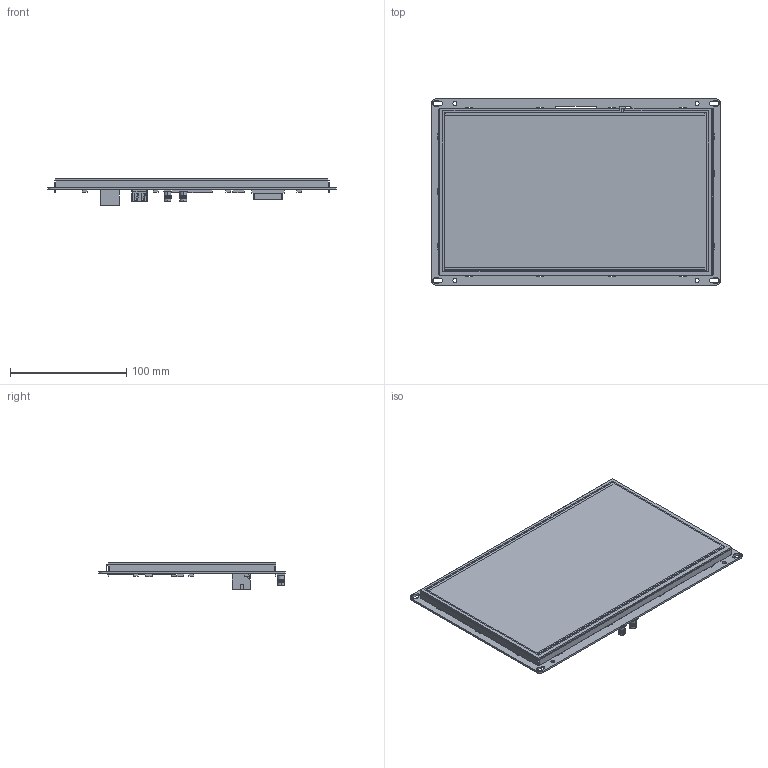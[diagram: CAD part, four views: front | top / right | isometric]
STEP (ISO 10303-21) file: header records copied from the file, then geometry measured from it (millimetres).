
FILE_DESCRIPTION (( 'STEP AP203' ), '1' );
FILE_NAME ('HMI_N10系列_通用3D（251223）.STEP', '2025-12-23T09:14:24', ( 'h''w''s''j''s' ), ( '' ), 'SwSTEP 2.0', 'SolidWorks 2020', '' );
FILE_SCHEMA (( 'CONFIG_CONTROL_DESIGN' ));
Length unit declared in the file: millimetre
Products named in the file (8): N10-PCB°å; HMI_N10系列_通用3D（251223）; B-C10.1萇郯; VH眻渀脣釱9P; 蕾宒USB; 眻脣泂え毞盄釱; N10-沺遺璃; 眻脣RJ45
Assembly tree (8 placements, depth 2):
  HMI_N10系列_通用3D（251223）
    N10-PCB°å
    N10-沺遺璃
    VH眻渀脣釱9P
    蕾宒USB
    眻脣RJ45
    眻脣泂え毞盄釱  x2
    B-C10.1萇郯
Bounding box: 248 x 160 x 23.1 mm (x, y, z)
Volume: 121646.9 mm3; surface area: 175707.6 mm2
Topology: 11 solids, 13 shells, 956 faces, 2557 edges, 1674 vertices
Faces by surface type: plane 730, cylinder 212, bspline 10, torus 4
Entity records: 28725 total; most frequent: CARTESIAN_POINT 5292, ORIENTED_EDGE 4778, DIRECTION 4433, EDGE_CURVE 2389, LINE 2035, VECTOR 2035, VERTEX_POINT 1556, AXIS2_PLACEMENT_3D 1199
